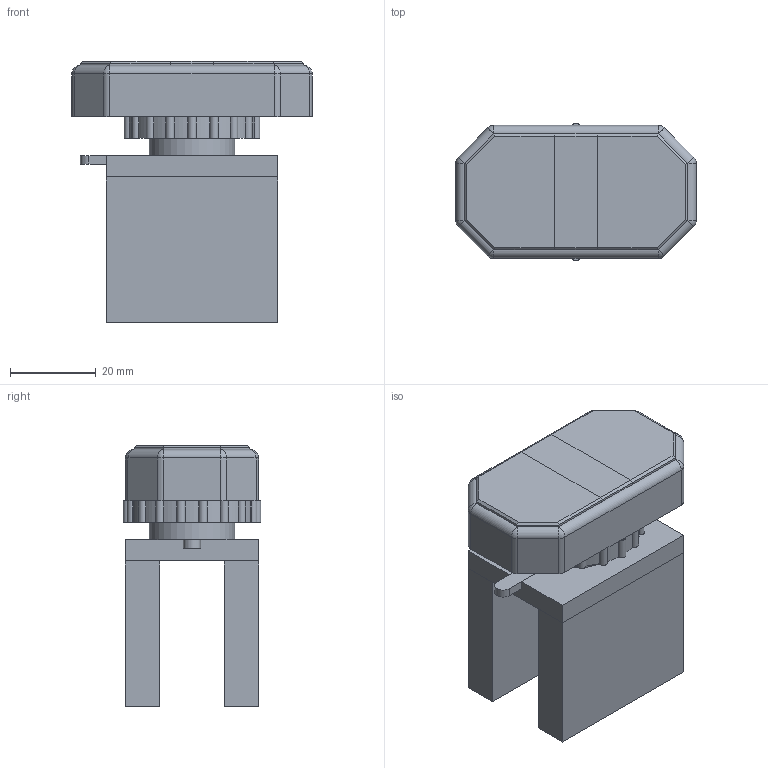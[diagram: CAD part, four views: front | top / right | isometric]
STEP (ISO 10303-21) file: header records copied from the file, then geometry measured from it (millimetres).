
FILE_DESCRIPTION(/* description */ (''),/* implementation_level */ '2;1');
FILE_NAME(/* name */ 'D:\CHINT3\NP8-S.stp',/* time_stamp */ '2017-12-10T20:58:57+03:00',/* author */ ('RSagdiev'),/* organization */ (''),/* preprocessor_version */ 'ST-DEVELOPER v16.5',/* originating_system */ 'Autodesk Inventor 2017',/* authorisation */ '');
FILE_SCHEMA (('AUTOMOTIVE_DESIGN { 1 0 10303 214 3 1 1 }'));
Length unit declared in the file: millimetre
Products named in the file (1): NP8-S
Bounding box: 56 x 32 x 61 mm (x, y, z)
Volume: 53389.3 mm3; surface area: 24613.2 mm2
Topology: 10 solids, 10 shells, 181 faces, 443 edges, 282 vertices
Faces by surface type: plane 119, cylinder 54, sphere 8
Full cylindrical faces by diameter (mm): 20 x1
Entity records: 5331 total; most frequent: DIRECTION 914, CARTESIAN_POINT 906, ORIENTED_EDGE 884, EDGE_CURVE 442, LINE 334, VECTOR 334, AXIS2_PLACEMENT_3D 290, VERTEX_POINT 282
